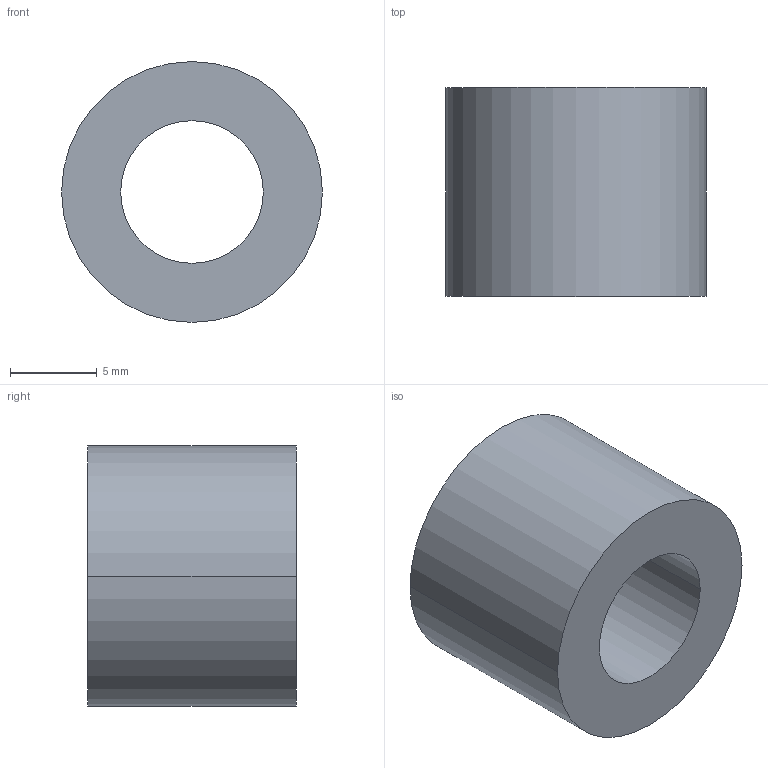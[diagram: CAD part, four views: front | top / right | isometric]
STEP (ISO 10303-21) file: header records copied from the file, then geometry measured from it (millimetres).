
FILE_DESCRIPTION (( 'STEP AP203' ), '1' );
FILE_NAME ('30800.WPP15E8.2.step', '2019-01-23T22:29:29', ( '' ), ( '' ), 'SwSTEP 2.0', 'SolidWorks 2017', '' );
FILE_SCHEMA (( 'CONFIG_CONTROL_DESIGN' ));
Length unit declared in the file: millimetre
Products named in the file (1): 30800.WPP15E8.2
Bounding box: 15 x 12 x 15 mm (x, y, z)
Volume: 1462.3 mm3; surface area: 1102.1 mm2
Topology: 1 solids, 1 shells, 8 faces, 16 edges, 10 vertices
Faces by surface type: cylinder 4, torus 2, plane 2
Entity records: 297 total; most frequent: DIRECTION 46, CARTESIAN_POINT 35, ORIENTED_EDGE 32, AXIS2_PLACEMENT_3D 21, EDGE_CURVE 16, CIRCLE 12, EDGE_LOOP 10, VERTEX_POINT 10
